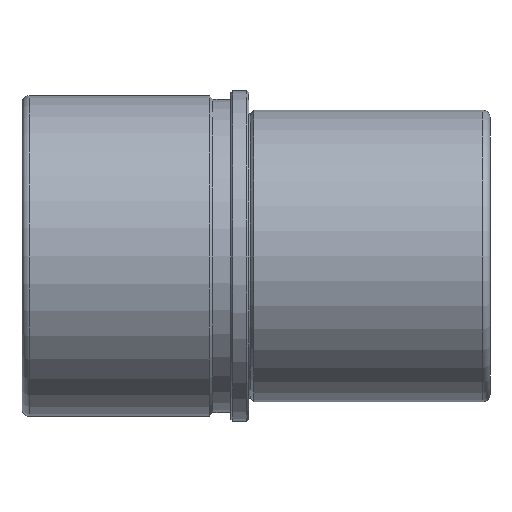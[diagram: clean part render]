
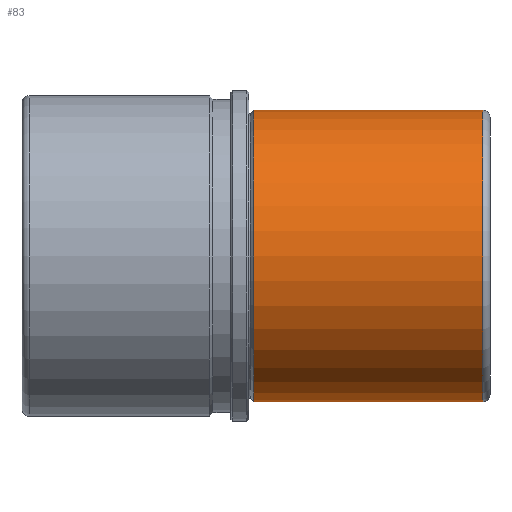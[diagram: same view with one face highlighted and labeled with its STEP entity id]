
A CAD part, front view. The second image highlights one B-rep face of the part: STEP entity #83.
In plain terms, the highlighted cylindrical face has radius 40.5 mm (diameter 81 mm), a full revolution.
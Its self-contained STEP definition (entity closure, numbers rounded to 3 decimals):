
#83 = ADVANCED_FACE( '', ( #182, #183 ), #184, .T. );
#182 = FACE_OUTER_BOUND( '', #275, .T. );
#183 = FACE_OUTER_BOUND( '', #276, .T. );
#184 = CYLINDRICAL_SURFACE( '', #277, 40.5 );
#275 = EDGE_LOOP( '', ( #400 ) );
#276 = EDGE_LOOP( '', ( #401 ) );
#277 = AXIS2_PLACEMENT_3D( '', #402, #403, #404 );
#400 = ORIENTED_EDGE( '', *, *, #448, .T. );
#401 = ORIENTED_EDGE( '', *, *, #445, .F. );
#402 = CARTESIAN_POINT( '', ( 67., 0., 0. ) );
#403 = DIRECTION( '', ( -1., 0., 0. ) );
#404 = DIRECTION( '', ( 0., 0., -1. ) );
#445 = EDGE_CURVE( '', #507, #507, #508, .T. );
#448 = EDGE_CURVE( '', #511, #511, #512, .T. );
#507 = VERTEX_POINT( '', #702 );
#508 = CIRCLE( '', #703, 40.5 );
#511 = VERTEX_POINT( '', #706 );
#512 = CIRCLE( '', #707, 40.5 );
#702 = CARTESIAN_POINT( '', ( 65., 0., -40.5 ) );
#703 = AXIS2_PLACEMENT_3D( '', #765, #766, #767 );
#706 = CARTESIAN_POINT( '', ( 1.414, 0., -40.5 ) );
#707 = AXIS2_PLACEMENT_3D( '', #768, #769, #770 );
#765 = CARTESIAN_POINT( '', ( 65., 0., 0. ) );
#766 = DIRECTION( '', ( 1., 0., 0. ) );
#767 = DIRECTION( '', ( 0., 0., -1. ) );
#768 = CARTESIAN_POINT( '', ( 1.414, 0., 0. ) );
#769 = DIRECTION( '', ( 1., 0., 0. ) );
#770 = DIRECTION( '', ( 0., 0., -1. ) );
